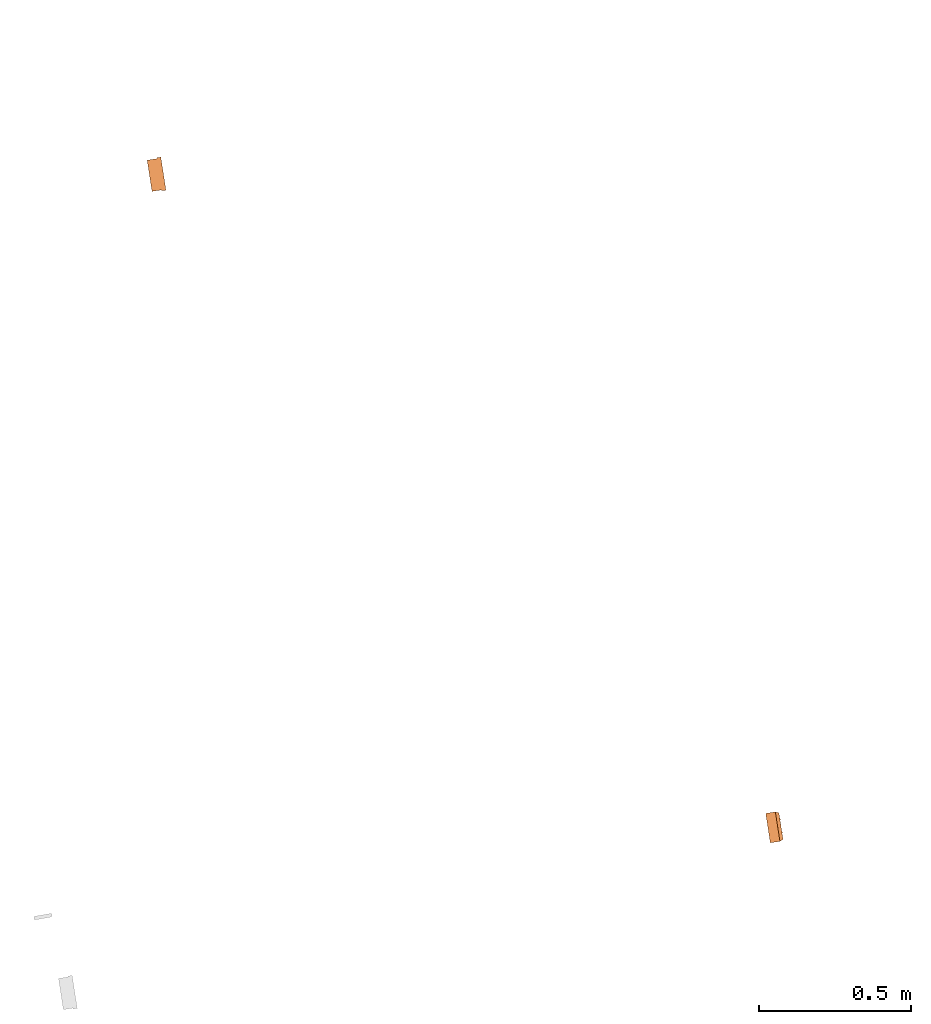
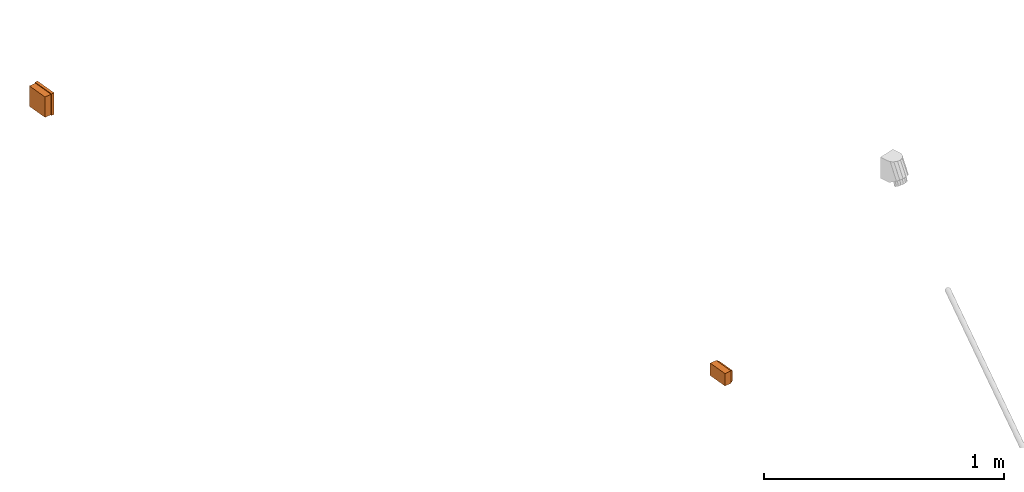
# One storey, part 29 of 33: 2 proxies.
"""IFC2X3 building model written with IfcOpenShell, lengths in millimetres."""

from ifc_helpers import new_model, entity, si_unit, converted_unit, derived_unit, direction, frame, frame_2d, origin, origin_with_axes, origin_2d_with_axis, place, context, subcontext, project, spatial, polyline, circle_curve, parameter, trimmed, segment, composite_curve, rectangle, circle, hollow_circle, outline, extrude, source, transform, mapped, material, type_object, element, save


model = new_model("IFC2X3")

# Units and contexts
plan_context = context("Plan", 3, precision=1e-05, world=origin_with_axes())
model_context = context("Model", 3, precision=0.01, world=origin(), true_north=direction((6.12323399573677e-17, 1.0)))
body_context = subcontext(model_context, "Body", "Model", "MODEL_VIEW")
ifc_project = project(units=[converted_unit("PLANEANGLEUNIT", "DEGREE", entity("IfcPositiveLengthMeasure", 0.0174532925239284), si_unit("PLANEANGLEUNIT", "RADIAN"), dimensions=[0, 0, 0, 0, 0, 0, 0]), si_unit("AREAUNIT", "SQUARE_METRE"), si_unit("LENGTHUNIT", "METRE", prefix="MILLI"), si_unit("MASSUNIT", "GRAM", prefix="KILO"), si_unit("POWERUNIT", "WATT"), si_unit("PRESSUREUNIT", "PASCAL", prefix="KILO"), si_unit("FORCEUNIT", "NEWTON", prefix="KILO"), si_unit("ELECTRICVOLTAGEUNIT", "VOLT"), si_unit("ELECTRICCURRENTUNIT", "AMPERE"), si_unit("THERMODYNAMICTEMPERATUREUNIT", "DEGREE_CELSIUS"), si_unit("TIMEUNIT", "SECOND"), si_unit("VOLUMEUNIT", "CUBIC_METRE"), derived_unit("LINEARVELOCITYUNIT", [(si_unit("LENGTHUNIT", "METRE"), 1), (si_unit("TIMEUNIT", "SECOND"), -1)]), derived_unit("VOLUMETRICFLOWRATEUNIT", [(si_unit("VOLUMEUNIT", "CUBIC_METRE"), 1), (si_unit("TIMEUNIT", "SECOND"), -1)]), derived_unit("THERMALTRANSMITTANCEUNIT", [(si_unit("POWERUNIT", "WATT"), 1), (si_unit("THERMODYNAMICTEMPERATUREUNIT", "KELVIN"), -1), (si_unit("AREAUNIT", "SQUARE_METRE"), -1)]), derived_unit("SOUNDPRESSUREUNIT", [(si_unit("PRESSUREUNIT", "PASCAL"), 1)])], contexts=[model_context, plan_context])

# Site, building, storey
site_placement = place(None, frame((-0.219946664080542, 0.12226179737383, 0.0), z_axis=(0.0, 0.0, 1.0), x_axis=(-0.160236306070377, 0.987078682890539, 0.0)))
site = spatial("IfcSite", under=ifc_project, at=site_placement, Name="Default", CompositionType="ELEMENT")
building_placement = place(site_placement, origin_with_axes())
building = spatial("IfcBuilding", under=site, at=building_placement, CompositionType="ELEMENT")
storey_placement = place(building_placement, frame((0.0, 0.0, 59000.0), z_axis=(0.0, 0.0, 1.0), x_axis=(1.0, 0.0, 0.0)))
storey = spatial("IfcBuildingStorey", under=building, at=storey_placement, Name="Nivå F", CompositionType="ELEMENT", Elevation=59000.0)

# Proxies
ifc_material = material(Name="<Unnamed>")
building_element_proxy_type_1 = type_object("IfcBuildingElementProxyType", Name="Dobbel stikk på vegg 2P+J hor PH:EARTHED-SOCKET-2(HOR)", PredefinedType="NOTDEFINED", material=ifc_material)
shared_shape_1 = source(origin(), body_context, "Body", "SweptSolid", [
    extrude(outline(composite_curve([segment(polyline([(-6.66666666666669, -6.66666666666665), (13.3333333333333, -6.66666666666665)]), True, "CONTINUOUS"), segment(trimmed(circle_curve(frame_2d((13.3333333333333, 13.3333333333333), x_axis=(0.0, -1.0)), 20.0), [parameter(270.0)], [parameter(5.08888749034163e-14)], True, "PARAMETER"), False, "CONTINUOUS"), segment(polyline([(-6.66666666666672, 13.3333333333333), (-6.66666666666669, -6.66666666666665)]), True, "CONTINUOUS")], self_intersect=False)), frame((35.3333333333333, 42.8999999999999, 13.3533333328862), z_axis=(0.0, 1.0, 0.0), x_axis=(0.0, 0.0, -1.0)), (0.0, 0.0, 1.0), 0.199999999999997),
    extrude(outline(composite_curve([segment(polyline([(-6.66666666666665, -6.66666666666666), (13.3333333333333, -6.66666666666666)]), True, "CONTINUOUS"), segment(trimmed(circle_curve(frame_2d((13.3333333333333, 13.3333333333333), x_axis=(-1.0, 0.0)), 20.0), [parameter(360.0)], [parameter(89.9999999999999)], True, "PARAMETER"), False, "CONTINUOUS"), segment(polyline([(-6.66666666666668, 13.3333333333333), (-6.66666666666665, -6.66666666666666)]), True, "CONTINUOUS")], self_intersect=False)), frame((35.3333333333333, 42.8999999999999, -13.3233333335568), z_axis=(0.0, 1.0, 0.0), x_axis=(-1.0, 0.0, 0.0)), (0.0, 0.0, 1.0), 0.199999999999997),
    extrude(outline(composite_curve([segment(polyline([(-6.66666666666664, -6.66666666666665), (13.3333333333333, -6.66666666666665)]), True, "CONTINUOUS"), segment(trimmed(circle_curve(frame_2d((13.3333333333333, 13.3333333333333), x_axis=(-1.0, 0.0)), 20.0), [parameter(0.0)], [parameter(89.9999999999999)], True, "PARAMETER"), False, "CONTINUOUS"), segment(polyline([(-6.66666666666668, 13.3333333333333), (-6.66666666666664, -6.66666666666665)]), True, "CONTINUOUS")], self_intersect=False)), frame((8.66666666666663, 42.8999999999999, 13.3433333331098), z_axis=(0.0, 1.0, 0.0), x_axis=(1.0, 0.0, 0.0)), (0.0, 0.0, 1.0), 0.199999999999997),
    extrude(outline(composite_curve([segment(polyline([(-6.66666666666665, -6.66666666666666), (13.3333333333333, -6.66666666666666)]), True, "CONTINUOUS"), segment(trimmed(circle_curve(frame_2d((13.3333333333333, 13.3333333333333), x_axis=(-1.0, 0.0)), 20.0), [parameter(360.0)], [parameter(89.9999999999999)], True, "PARAMETER"), False, "CONTINUOUS"), segment(polyline([(-6.66666666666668, 13.3333333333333), (-6.66666666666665, -6.66666666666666)]), True, "CONTINUOUS")], self_intersect=False)), frame((35.3333333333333, 42.8999999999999, -13.3433333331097), z_axis=(0.0, 1.0, 0.0), x_axis=(-1.0, 0.0, 0.0)), (0.0, 0.0, 1.0), 0.199999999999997),
    extrude(outline(composite_curve([segment(polyline([(-6.66666666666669, -6.66666666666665), (13.3333333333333, -6.66666666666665)]), True, "CONTINUOUS"), segment(trimmed(circle_curve(frame_2d((13.3333333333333, 13.3333333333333), x_axis=(0.0, -1.0)), 20.0), [parameter(270.0)], [parameter(5.08888749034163e-14)], True, "PARAMETER"), False, "CONTINUOUS"), segment(polyline([(-6.66666666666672, 13.3333333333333), (-6.66666666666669, -6.66666666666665)]), True, "CONTINUOUS")], self_intersect=False)), frame((35.3333333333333, 42.8999999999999, 13.3333333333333), z_axis=(0.0, 1.0, 0.0), x_axis=(0.0, 0.0, -1.0)), (0.0, 0.0, 1.0), 0.199999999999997),
    extrude(outline(composite_curve([segment(polyline([(-6.66666666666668, -6.66666666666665), (13.3333333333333, -6.66666666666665)]), True, "CONTINUOUS"), segment(trimmed(circle_curve(frame_2d((13.3333333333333, 13.3333333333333), x_axis=(0.0, -1.0)), 20.0), [parameter(270.0)], [parameter(0.0)], True, "PARAMETER"), False, "CONTINUOUS"), segment(polyline([(-6.66666666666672, 13.3333333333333), (-6.66666666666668, -6.66666666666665)]), True, "CONTINUOUS")], self_intersect=False)), frame((8.66666666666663, 42.8999999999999, -13.3333333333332), z_axis=(0.0, 1.0, 0.0), x_axis=(0.0, 0.0, 1.0)), (0.0, 0.0, 1.0), 0.199999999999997),
    extrude(outline(composite_curve([segment(polyline([(-6.66666666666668, -6.66666666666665), (13.3333333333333, -6.66666666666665)]), True, "CONTINUOUS"), segment(trimmed(circle_curve(frame_2d((13.3333333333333, 13.3333333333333), x_axis=(0.0, -1.0)), 20.0), [parameter(270.0)], [parameter(0.0)], True, "PARAMETER"), False, "CONTINUOUS"), segment(polyline([(-6.66666666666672, 13.3333333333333), (-6.66666666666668, -6.66666666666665)]), True, "CONTINUOUS")], self_intersect=False)), frame((-8.66666666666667, 42.8999999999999, 13.3533333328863), z_axis=(0.0, 1.0, 0.0), x_axis=(0.0, 0.0, -1.0)), (0.0, 0.0, 1.0), 0.199999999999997),
    extrude(outline(composite_curve([segment(polyline([(-6.66666666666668, -6.66666666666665), (13.3333333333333, -6.66666666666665)]), True, "CONTINUOUS"), segment(trimmed(circle_curve(frame_2d((13.3333333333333, 13.3333333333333), x_axis=(-1.0, 0.0)), 20.0), [parameter(0.0)], [parameter(90.0)], True, "PARAMETER"), False, "CONTINUOUS"), segment(polyline([(-6.66666666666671, 13.3333333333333), (-6.66666666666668, -6.66666666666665)]), True, "CONTINUOUS")], self_intersect=False)), frame((-8.66666666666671, 42.8999999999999, -13.3233333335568), z_axis=(0.0, 1.0, 0.0), x_axis=(-1.0, 0.0, 0.0)), (0.0, 0.0, 1.0), 0.199999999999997),
    extrude(outline(composite_curve([segment(polyline([(-6.66666666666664, -6.66666666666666), (13.3333333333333, -6.66666666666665)]), True, "CONTINUOUS"), segment(trimmed(circle_curve(frame_2d((13.3333333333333, 13.3333333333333), x_axis=(-1.0, 0.0)), 20.0), [parameter(360.0)], [parameter(89.9999999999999)], True, "PARAMETER"), False, "CONTINUOUS"), segment(polyline([(-6.66666666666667, 13.3333333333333), (-6.66666666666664, -6.66666666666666)]), True, "CONTINUOUS")], self_intersect=False)), frame((-35.3333333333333, 42.8999999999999, 13.3433333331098), z_axis=(0.0, 1.0, 0.0), x_axis=(1.0, 0.0, 0.0)), (0.0, 0.0, 1.0), 0.199999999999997),
    extrude(outline(composite_curve([segment(polyline([(-6.66666666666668, -6.66666666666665), (13.3333333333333, -6.66666666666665)]), True, "CONTINUOUS"), segment(trimmed(circle_curve(frame_2d((13.3333333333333, 13.3333333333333), x_axis=(-1.0, 0.0)), 20.0), [parameter(0.0)], [parameter(90.0)], True, "PARAMETER"), False, "CONTINUOUS"), segment(polyline([(-6.66666666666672, 13.3333333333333), (-6.66666666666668, -6.66666666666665)]), True, "CONTINUOUS")], self_intersect=False)), frame((-8.66666666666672, 42.8999999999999, -13.3433333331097), z_axis=(0.0, 1.0, 0.0), x_axis=(-1.0, 0.0, 0.0)), (0.0, 0.0, 1.0), 0.199999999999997),
    extrude(outline(composite_curve([segment(polyline([(-6.66666666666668, -6.66666666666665), (13.3333333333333, -6.66666666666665)]), True, "CONTINUOUS"), segment(trimmed(circle_curve(frame_2d((13.3333333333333, 13.3333333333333), x_axis=(0.0, -1.0)), 20.0), [parameter(270.0)], [parameter(0.0)], True, "PARAMETER"), False, "CONTINUOUS"), segment(polyline([(-6.66666666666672, 13.3333333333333), (-6.66666666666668, -6.66666666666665)]), True, "CONTINUOUS")], self_intersect=False)), frame((-8.66666666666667, 42.8999999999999, 13.3333333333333), z_axis=(0.0, 1.0, 0.0), x_axis=(0.0, 0.0, -1.0)), (0.0, 0.0, 1.0), 0.199999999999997),
    extrude(outline(composite_curve([segment(polyline([(-6.66666666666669, -6.66666666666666), (13.3333333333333, -6.66666666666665)]), True, "CONTINUOUS"), segment(trimmed(circle_curve(frame_2d((13.3333333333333, 13.3333333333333), x_axis=(0.0, -1.0)), 20.0), [parameter(270.0)], [parameter(5.08888749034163e-14)], True, "PARAMETER"), False, "CONTINUOUS"), segment(polyline([(-6.66666666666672, 13.3333333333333), (-6.66666666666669, -6.66666666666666)]), True, "CONTINUOUS")], self_intersect=False)), frame((-35.3333333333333, 42.8999999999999, -13.3333333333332), z_axis=(0.0, 1.0, 0.0), x_axis=(0.0, 0.0, 1.0)), (0.0, 0.0, 1.0), 0.199999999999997),
    extrude(rectangle(XDim=9.99999999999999, YDim=1.0, at=frame_2d((0.0, 2.1094237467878e-15), x_axis=(1.0, 0.0))), frame((22.0, 40.0, -17.6), z_axis=(0.0, 0.0, 1.0), x_axis=(0.0, -1.0, 0.0)), (0.0, 0.0, 1.0), 0.199999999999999),
    extrude(rectangle(XDim=21.5, YDim=1.0, at=frame_2d((0.0, 8.43769498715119e-15), x_axis=(1.0, 0.0))), frame((22.0, 32.25, -19.6), z_axis=(0.0, 0.0, 1.0), x_axis=(0.0, -1.0, 0.0)), (0.0, 0.0, 1.0), 0.200000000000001),
    extrude(rectangle(XDim=9.99999999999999, YDim=1.0, at=frame_2d((0.0, 2.1094237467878e-15), x_axis=(1.0, 0.0))), frame((22.0, 40.0, 17.4), z_axis=(0.0, 0.0, 1.0), x_axis=(0.0, -1.0, 0.0)), (0.0, 0.0, 1.0), 0.199999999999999),
    extrude(rectangle(XDim=21.5, YDim=1.0, at=frame_2d((0.0, 8.43769498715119e-15), x_axis=(1.0, 0.0))), frame((22.0, 32.25, 19.4), z_axis=(0.0, 0.0, 1.0), x_axis=(0.0, -1.0, 0.0)), (0.0, 0.0, 1.0), 0.200000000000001),
    extrude(rectangle(XDim=9.99999999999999, YDim=1.0, at=frame_2d((0.0, -2.1094237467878e-15), x_axis=(1.0, 0.0))), frame((-22.0, 40.0, -17.6), z_axis=(0.0, 0.0, 1.0), x_axis=(0.0, -1.0, 0.0)), (0.0, 0.0, 1.0), 0.199999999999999),
    extrude(rectangle(XDim=21.5, YDim=1.0, at=frame_2d((0.0, 8.43769498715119e-15), x_axis=(1.0, 0.0))), frame((-22.0, 32.25, -19.6), z_axis=(0.0, 0.0, 1.0), x_axis=(0.0, -1.0, 0.0)), (0.0, 0.0, 1.0), 0.200000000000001),
    extrude(rectangle(XDim=9.99999999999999, YDim=1.0, at=frame_2d((0.0, -2.1094237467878e-15), x_axis=(1.0, 0.0))), frame((-22.0, 40.0, 17.4), z_axis=(0.0, 0.0, 1.0), x_axis=(0.0, -1.0, 0.0)), (0.0, 0.0, 1.0), 0.199999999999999),
    extrude(rectangle(XDim=21.5, YDim=1.0, at=frame_2d((0.0, 8.43769498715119e-15), x_axis=(1.0, 0.0))), frame((-22.0, 32.25, 19.4), z_axis=(0.0, 0.0, 1.0), x_axis=(0.0, -1.0, 0.0)), (0.0, 0.0, 1.0), 0.200000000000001),
    extrude(rectangle(XDim=0.199999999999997, YDim=2.0, at=frame_2d((4.2257863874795e-15, 0.0), x_axis=(1.0, 0.0))), frame((43.0, 43.0, 0.0199999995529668), z_axis=(0.0, 0.0, 1.0), x_axis=(0.0, 1.0, 0.0)), (0.0, 0.0, 1.0), 20.0),
    extrude(rectangle(XDim=0.199999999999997, YDim=40.0, at=frame_2d((4.2257863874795e-15, 0.0), x_axis=(1.0, 0.0))), frame((22.0, 43.0, 20.0199999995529), z_axis=(0.0, 0.0, 1.0), x_axis=(0.0, 1.0, 0.0)), (0.0, 0.0, 1.0), 6.5),
    extrude(rectangle(XDim=0.199999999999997, YDim=2.0, at=frame_2d((4.2257863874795e-15, 0.0), x_axis=(1.0, 0.0))), frame((43.0, 43.0, -19.9900000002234), z_axis=(0.0, 0.0, 1.0), x_axis=(0.0, -1.0, 0.0)), (0.0, 0.0, 1.0), 20.0),
    extrude(rectangle(XDim=0.199999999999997, YDim=40.0, at=frame_2d((4.2257863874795e-15, 0.0), x_axis=(1.0, 0.0))), frame((22.0, 43.0, -26.4900000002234), z_axis=(0.0, 0.0, 1.0), x_axis=(0.0, -1.0, 0.0)), (0.0, 0.0, 1.0), 6.49999999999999),
    extrude(rectangle(XDim=0.199999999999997, YDim=2.0, at=frame_2d((4.2257863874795e-15, 0.0), x_axis=(1.0, 0.0))), frame((1.0, 43.0, 0.00999999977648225), z_axis=(0.0, 0.0, 1.0), x_axis=(0.0, -1.0, 0.0)), (0.0, 0.0, 1.0), 20.0),
    extrude(rectangle(XDim=0.199999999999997, YDim=2.0, at=frame_2d((4.2257863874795e-15, 0.0), x_axis=(1.0, 0.0))), frame((43.0, 43.0, -20.0099999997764), z_axis=(0.0, 0.0, 1.0), x_axis=(0.0, -1.0, 0.0)), (0.0, 0.0, 1.0), 20.0),
    extrude(rectangle(XDim=0.199999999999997, YDim=40.0, at=frame_2d((4.2257863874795e-15, 0.0), x_axis=(1.0, 0.0))), frame((22.0, 43.0, -26.5099999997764), z_axis=(0.0, 0.0, 1.0), x_axis=(0.0, -1.0, 0.0)), (0.0, 0.0, 1.0), 6.5),
    extrude(rectangle(XDim=0.199999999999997, YDim=2.0, at=frame_2d((4.2257863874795e-15, 0.0), x_axis=(1.0, 0.0))), frame((43.0, 43.0, 0.0), z_axis=(0.0, 0.0, 1.0), x_axis=(0.0, 1.0, 0.0)), (0.0, 0.0, 1.0), 20.0),
    extrude(rectangle(XDim=0.199999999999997, YDim=40.0, at=frame_2d((4.2257863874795e-15, 0.0), x_axis=(1.0, 0.0))), frame((22.0, 43.0, 20.0), z_axis=(0.0, 0.0, 1.0), x_axis=(0.0, 1.0, 0.0)), (0.0, 0.0, 1.0), 6.5),
    extrude(rectangle(XDim=0.199999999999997, YDim=2.0, at=frame_2d((4.2257863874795e-15, 0.0), x_axis=(1.0, 0.0))), frame((1.0, 43.0, -20.0), z_axis=(0.0, 0.0, 1.0), x_axis=(0.0, 1.0, 0.0)), (0.0, 0.0, 1.0), 20.0),
    extrude(rectangle(XDim=0.199999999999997, YDim=2.0, at=frame_2d((4.2257863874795e-15, 0.0), x_axis=(1.0, 0.0))), frame((-1.0, 43.0, 0.0199999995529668), z_axis=(0.0, 0.0, 1.0), x_axis=(0.0, 1.0, 0.0)), (0.0, 0.0, 1.0), 20.0),
    extrude(rectangle(XDim=0.199999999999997, YDim=40.0, at=frame_2d((4.2257863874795e-15, 0.0), x_axis=(1.0, 0.0))), frame((-22.0, 43.0, 20.0199999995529), z_axis=(0.0, 0.0, 1.0), x_axis=(0.0, 1.0, 0.0)), (0.0, 0.0, 1.0), 6.5),
    extrude(rectangle(XDim=0.199999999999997, YDim=2.0, at=frame_2d((4.2257863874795e-15, 0.0), x_axis=(1.0, 0.0))), frame((-1.0, 43.0, -19.9900000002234), z_axis=(0.0, 0.0, 1.0), x_axis=(0.0, -1.0, 0.0)), (0.0, 0.0, 1.0), 20.0),
    extrude(rectangle(XDim=0.199999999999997, YDim=40.0, at=frame_2d((4.2257863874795e-15, 0.0), x_axis=(1.0, 0.0))), frame((-22.0, 43.0, -26.4900000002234), z_axis=(0.0, 0.0, 1.0), x_axis=(0.0, -1.0, 0.0)), (0.0, 0.0, 1.0), 6.49999999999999),
    extrude(rectangle(XDim=0.199999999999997, YDim=1.99999999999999, at=frame_2d((4.2257863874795e-15, 4.2188474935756e-15), x_axis=(1.0, 0.0))), frame((-43.0, 43.0, 0.00999999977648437), z_axis=(0.0, 0.0, 1.0), x_axis=(0.0, -1.0, 0.0)), (0.0, 0.0, 1.0), 20.0),
    extrude(rectangle(XDim=0.199999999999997, YDim=2.0, at=frame_2d((4.2257863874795e-15, 0.0), x_axis=(1.0, 0.0))), frame((-1.0, 43.0, -20.0099999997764), z_axis=(0.0, 0.0, 1.0), x_axis=(0.0, -1.0, 0.0)), (0.0, 0.0, 1.0), 20.0),
    extrude(rectangle(XDim=0.199999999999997, YDim=40.0, at=frame_2d((4.2257863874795e-15, 0.0), x_axis=(1.0, 0.0))), frame((-22.0, 43.0, -26.5099999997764), z_axis=(0.0, 0.0, 1.0), x_axis=(0.0, -1.0, 0.0)), (0.0, 0.0, 1.0), 6.5),
    extrude(rectangle(XDim=0.199999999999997, YDim=2.0, at=frame_2d((4.2257863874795e-15, 0.0), x_axis=(1.0, 0.0))), frame((-1.0, 43.0, 0.0), z_axis=(0.0, 0.0, 1.0), x_axis=(0.0, 1.0, 0.0)), (0.0, 0.0, 1.0), 20.0),
    extrude(rectangle(XDim=0.199999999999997, YDim=40.0, at=frame_2d((4.2257863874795e-15, 0.0), x_axis=(1.0, 0.0))), frame((-22.0, 43.0, 20.0), z_axis=(0.0, 0.0, 1.0), x_axis=(0.0, 1.0, 0.0)), (0.0, 0.0, 1.0), 6.5),
    extrude(rectangle(XDim=0.199999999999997, YDim=1.99999999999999, at=frame_2d((4.2257863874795e-15, -4.2188474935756e-15), x_axis=(1.0, 0.0))), frame((-43.0, 43.0, -20.0), z_axis=(0.0, 0.0, 1.0), x_axis=(0.0, 1.0, 0.0)), (0.0, 0.0, 1.0), 20.0),
    extrude(rectangle(XDim=0.199999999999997, YDim=2.0, at=frame_2d((4.2257863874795e-15, 0.0), x_axis=(1.0, 0.0))), frame((-1.0, 43.0, -26.5), z_axis=(0.0, 0.0, 1.0), x_axis=(0.0, 1.0, 0.0)), (0.0, 0.0, 1.0), 6.49999999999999),
    extrude(rectangle(XDim=0.199999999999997, YDim=1.99999999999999, at=frame_2d((4.2257863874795e-15, 4.2188474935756e-15), x_axis=(1.0, 0.0))), frame((-43.0, 43.0, -26.5), z_axis=(0.0, 0.0, 1.0), x_axis=(0.0, 1.0, 0.0)), (0.0, 0.0, 1.0), 6.49999999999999),
    extrude(rectangle(XDim=0.199999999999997, YDim=2.0, at=frame_2d((4.2257863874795e-15, 0.0), x_axis=(1.0, 0.0))), frame((1.0, 43.0, -26.5), z_axis=(0.0, 0.0, 1.0), x_axis=(0.0, 1.0, 0.0)), (0.0, 0.0, 1.0), 6.49999999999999),
    extrude(rectangle(XDim=0.199999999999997, YDim=1.99999999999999, at=frame_2d((4.2257863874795e-15, -4.2188474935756e-15), x_axis=(1.0, 0.0))), frame((43.0, 43.0, -26.5), z_axis=(0.0, 0.0, 1.0), x_axis=(0.0, 1.0, 0.0)), (0.0, 0.0, 1.0), 6.49999999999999),
    extrude(outline(polyline([(-24.3180677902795, -42.966633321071), (-11.2413709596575, -42.9666333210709), (22.4062700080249, 38.3465652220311), (13.1531687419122, 47.5867014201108), (-24.3180677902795, -42.966633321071)])), frame((0.0, 37.5413802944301, -29.0910366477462), z_axis=(0.0, -0.413802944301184, 0.910366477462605), x_axis=(-0.382359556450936, 0.84119102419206, 0.382359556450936)), (0.0, 0.0, 1.0), 0.199999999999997),
    extrude(outline(polyline([(-31.5, -6.04152298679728), (31.5, -6.04152298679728), (26.5, 6.04152298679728), (-26.5, 6.04152298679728), (-31.5, -6.04152298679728)])), frame((-46.5910366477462, 37.5413802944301, 0.0), z_axis=(0.910366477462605, -0.413802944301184, 0.0), x_axis=(0.0, 0.0, -1.0)), (0.0, 0.0, 1.0), 0.200000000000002),
    extrude(outline(polyline([(-31.5, -6.04152298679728), (31.5, -6.04152298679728), (26.5, 6.04152298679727), (-26.5, 6.04152298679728), (-31.5, -6.04152298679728)])), frame((46.4089633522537, 37.4586197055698, 0.0), z_axis=(0.910366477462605, 0.413802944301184, 0.0), x_axis=(0.0, 0.0, -1.0)), (0.0, 0.0, 1.0), 0.199999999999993),
    extrude(rectangle(XDim=32.0, YDim=97.9999999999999, at=frame_2d((1.77635683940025e-15, 0.0), x_axis=(1.0, 0.0))), frame((0.0, 16.0, -31.6), z_axis=(0.0, 0.0, 1.0), x_axis=(0.0, -1.0, 0.0)), (0.0, 0.0, 1.0), 0.200000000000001),
    extrude(rectangle(XDim=0.199999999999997, YDim=2.0, at=frame_2d((4.2257863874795e-15, 0.0), x_axis=(1.0, 0.0))), frame((-1.0, 43.0, 20.0), z_axis=(0.0, 0.0, 1.0), x_axis=(0.0, 1.0, 0.0)), (0.0, 0.0, 1.0), 6.49999999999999),
    extrude(rectangle(XDim=0.199999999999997, YDim=1.99999999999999, at=frame_2d((4.2257863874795e-15, 4.2188474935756e-15), x_axis=(1.0, 0.0))), frame((-43.0, 43.0, 20.0), z_axis=(0.0, 0.0, 1.0), x_axis=(0.0, 1.0, 0.0)), (0.0, 0.0, 1.0), 6.49999999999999),
    extrude(outline(polyline([(-44.0, -6.04152298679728), (44.0, -6.04152298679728), (49.0, 6.04152298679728), (-49.0, 6.04152298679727), (-44.0, -6.04152298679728)])), frame((0.0, 37.4586197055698, 28.9089633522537), z_axis=(0.0, 0.413802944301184, 0.910366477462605), x_axis=(-1.0, 0.0, 0.0)), (0.0, 0.0, 1.0), 0.200000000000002),
    extrude(rectangle(XDim=0.199999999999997, YDim=2.0, at=frame_2d((4.2257863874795e-15, 0.0), x_axis=(1.0, 0.0))), frame((1.0, 43.0, 20.0), z_axis=(0.0, 0.0, 1.0), x_axis=(0.0, 1.0, 0.0)), (0.0, 0.0, 1.0), 6.49999999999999),
    extrude(rectangle(XDim=0.199999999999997, YDim=1.99999999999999, at=frame_2d((4.2257863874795e-15, -4.2188474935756e-15), x_axis=(1.0, 0.0))), frame((43.0, 43.0, 20.0), z_axis=(0.0, 0.0, 1.0), x_axis=(0.0, 1.0, 0.0)), (0.0, 0.0, 1.0), 6.49999999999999),
    extrude(rectangle(XDim=32.0, YDim=97.9999999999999, at=frame_2d((1.77635683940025e-15, 0.0), x_axis=(1.0, 0.0))), frame((0.0, 16.0, 31.4), z_axis=(0.0, 0.0, 1.0), x_axis=(0.0, -1.0, 0.0)), (0.0, 0.0, 1.0), 0.200000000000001),
    extrude(rectangle(XDim=0.199999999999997, YDim=32.0, at=frame_2d((-4.2257863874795e-15, 0.0), x_axis=(1.0, 0.0))), frame((49.0, 16.0, -31.5)), (0.0, 0.0, 1.0), 62.9999999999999),
    extrude(rectangle(XDim=0.199999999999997, YDim=32.0, at=frame_2d((-4.2257863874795e-15, 0.0), x_axis=(1.0, 0.0))), frame((-49.0, 16.0, -31.5)), (0.0, 0.0, 1.0), 62.9999999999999),
    extrude(rectangle(XDim=0.2, YDim=97.9999999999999, at=origin_2d_with_axis()), frame((0.0, 0.0, -31.5), z_axis=(0.0, 0.0, 1.0), x_axis=(0.0, 1.0, 0.0)), (0.0, 0.0, 1.0), 62.9999999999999),
    extrude(circle(Radius=2.5, at=frame_2d((0.0, -4.22994972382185e-15), x_axis=(1.0, 0.0))), frame((32.0, 21.450000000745, 0.0), z_axis=(0.0, 1.0, 0.0), x_axis=(0.0, 0.0, 1.0)), (0.0, 0.0, 1.0), 0.200000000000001),
    extrude(circle(Radius=2.5, at=frame_2d((0.0, -4.22994972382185e-15), x_axis=(1.0, 0.0))), frame((12.0, 21.450000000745, 0.0), z_axis=(0.0, 1.0, 0.0), x_axis=(0.0, 0.0, 1.0)), (0.0, 0.0, 1.0), 0.200000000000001),
    extrude(circle(Radius=2.5, at=frame_2d((0.0, -4.22994972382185e-15), x_axis=(1.0, 0.0))), frame((-12.0, 21.450000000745, 0.0), z_axis=(0.0, 1.0, 0.0), x_axis=(0.0, 0.0, 1.0)), (0.0, 0.0, 1.0), 0.200000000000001),
    extrude(circle(Radius=2.5, at=frame_2d((0.0, -4.22994972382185e-15), x_axis=(1.0, 0.0))), frame((-32.0, 21.450000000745, 0.0), z_axis=(0.0, 1.0, 0.0), x_axis=(0.0, 0.0, 1.0)), (0.0, 0.0, 1.0), 0.200000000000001),
    extrude(circle(Radius=20.0, at=frame_2d((0.0, -2.96096480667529e-14), x_axis=(1.0, 0.0))), frame((22.0, 21.4, 0.0), z_axis=(0.0, 1.0, 0.0), x_axis=(0.0, 0.0, 1.0)), (0.0, 0.0, 1.0), 0.200000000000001),
    extrude(circle(Radius=20.0, at=frame_2d((0.0, -2.96096480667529e-14), x_axis=(1.0, 0.0))), frame((-22.0, 21.4, 0.0), z_axis=(0.0, 1.0, 0.0), x_axis=(0.0, 0.0, 1.0)), (0.0, 0.0, 1.0), 0.200000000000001),
    extrude(outline(composite_curve([segment(trimmed(circle_curve(frame_2d((-0.800000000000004, 0.800000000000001), x_axis=(1.0, 0.0)), 2.0), [parameter(270.0)], [parameter(0.0)], True, "PARAMETER"), True, "CONTINUOUS"), segment(polyline([(1.2, 0.8), (0.399999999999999, 0.8)]), True, "CONTINUOUS"), segment(trimmed(circle_curve(frame_2d((-0.800000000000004, 0.799999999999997), x_axis=(0.0, -1.0)), 1.2), [parameter(0.0)], [parameter(89.9999999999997)], True, "PARAMETER"), False, "CONTINUOUS"), segment(polyline([(-0.799999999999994, -0.400000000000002), (-0.799999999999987, -1.2)]), True, "CONTINUOUS")], self_intersect=False)), frame((20.5, 43.7999999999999, -18.3), z_axis=(1.0, 0.0, 0.0), x_axis=(0.0, 1.0, 0.0)), (0.0, 0.0, 1.0), 2.0),
    extrude(outline(composite_curve([segment(polyline([(-1.2, -0.800000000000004), (-0.399999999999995, -0.800000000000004)]), True, "CONTINUOUS"), segment(trimmed(circle_curve(frame_2d((0.800000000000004, -0.800000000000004), x_axis=(-1.0, 0.0)), 1.2), [parameter(270.0)], [parameter(0.0)], True, "PARAMETER"), False, "CONTINUOUS"), segment(polyline([(0.799999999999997, 0.399999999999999), (0.79999999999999, 1.2)]), True, "CONTINUOUS"), segment(trimmed(circle_curve(frame_2d((0.800000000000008, -0.800000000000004), x_axis=(0.0, 1.0)), 2.0), [parameter(0.0)], [parameter(89.9999999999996)], True, "PARAMETER"), True, "CONTINUOUS")], self_intersect=False)), frame((21.5, 43.8, 18.3), z_axis=(1.0, 0.0, 0.0), x_axis=(0.0, 0.0, -1.0)), (0.0, 0.0, 1.0), 2.0),
    extrude(outline(composite_curve([segment(trimmed(circle_curve(frame_2d((-0.800000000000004, 0.800000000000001), x_axis=(1.0, 0.0)), 2.0), [parameter(270.0)], [parameter(0.0)], True, "PARAMETER"), True, "CONTINUOUS"), segment(polyline([(1.2, 0.8), (0.399999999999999, 0.8)]), True, "CONTINUOUS"), segment(trimmed(circle_curve(frame_2d((-0.800000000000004, 0.799999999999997), x_axis=(0.0, -1.0)), 1.2), [parameter(0.0)], [parameter(89.9999999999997)], True, "PARAMETER"), False, "CONTINUOUS"), segment(polyline([(-0.799999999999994, -0.400000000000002), (-0.799999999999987, -1.2)]), True, "CONTINUOUS")], self_intersect=False)), frame((-23.5, 43.7999999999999, -18.3), z_axis=(1.0, 0.0, 0.0), x_axis=(0.0, 1.0, 0.0)), (0.0, 0.0, 1.0), 2.0),
    extrude(outline(composite_curve([segment(polyline([(-1.2, -0.800000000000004), (-0.399999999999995, -0.800000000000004)]), True, "CONTINUOUS"), segment(trimmed(circle_curve(frame_2d((0.800000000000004, -0.800000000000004), x_axis=(-1.0, 0.0)), 1.2), [parameter(270.0)], [parameter(0.0)], True, "PARAMETER"), False, "CONTINUOUS"), segment(polyline([(0.799999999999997, 0.399999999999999), (0.79999999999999, 1.2)]), True, "CONTINUOUS"), segment(trimmed(circle_curve(frame_2d((0.800000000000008, -0.800000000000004), x_axis=(0.0, 1.0)), 2.0), [parameter(0.0)], [parameter(89.9999999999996)], True, "PARAMETER"), True, "CONTINUOUS")], self_intersect=False)), frame((-22.5, 43.8, 18.3), z_axis=(1.0, 0.0, 0.0), x_axis=(0.0, 0.0, -1.0)), (0.0, 0.0, 1.0), 2.0),
    extrude(hollow_circle(Radius=20.0, WallThickness=0.199999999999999, at=frame_2d((0.0, -2.96096480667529e-14), x_axis=(1.0, 0.0))), frame((22.0, 21.5, 0.0), z_axis=(0.0, 1.0, 0.0), x_axis=(0.0, 0.0, 1.0)), (0.0, 0.0, 1.0), 21.5),
    extrude(hollow_circle(Radius=20.0, WallThickness=0.199999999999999, at=frame_2d((0.0, -2.96096480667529e-14), x_axis=(1.0, 0.0))), frame((-22.0, 21.5, 0.0), z_axis=(0.0, 1.0, 0.0), x_axis=(0.0, 0.0, 1.0)), (0.0, 0.0, 1.0), 21.5),
])
proxy_1_placement = place(storey_placement, frame((781686.790440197, -504628.879820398, 1200.0), z_axis=(0.0, 0.0, 1.0), x_axis=(-0.999975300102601, 0.00702845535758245, 0.0)))
element("IfcBuildingElementProxy", 1, at=proxy_1_placement, inside=storey, type_object=building_element_proxy_type_1, material=ifc_material, Name="Dobbel stikk på vegg 2P+J hor PH:EARTHED-SOCKET-2(HOR)", ObjectType="Dobbel stikk på vegg 2P+J hor PH:EARTHED-SOCKET-2(HOR)", context=body_context, shape_type="MappedRepresentation", body=[
    mapped(shared_shape_1, transform((0.0, 0.0, 0.0), scale=1.0)),
])
building_element_proxy_type_2 = type_object("IfcBuildingElementProxyType", Name="1612510-0001:Junction box1", PredefinedType="NOTDEFINED", material=ifc_material)
shared_shape_2 = source(origin(), body_context, "Body", "SweptSolid", [
    extrude(rectangle(XDim=110.0, YDim=13.8000001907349, at=frame_2d((0.0, 2.22044604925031e-15), x_axis=(1.0, 0.0))), frame((0.0, 39.1000008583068, -55.0)), (0.0, 0.0, 1.0), 110.0),
    extrude(rectangle(XDim=104.0, YDim=32.2000007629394, at=origin_2d_with_axis()), frame((0.0, 16.1000003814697, -52.0)), (0.0, 0.0, 1.0), 104.0),
])
proxy_2_placement = place(storey_placement, frame((784133.585049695, -502962.784489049, 2000.0), z_axis=(0.0, 0.0, 1.0), x_axis=(-0.999975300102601, 0.00702845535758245, 0.0)))
element("IfcBuildingElementProxy", 2, at=proxy_2_placement, inside=storey, type_object=building_element_proxy_type_2, material=ifc_material, Name="1612510-0001:Junction box1", ObjectType="1612510-0001:Junction box1", context=body_context, shape_type="MappedRepresentation", body=[
    mapped(shared_shape_2, transform((0.0, 0.0, 0.0), scale=1.0)),
])

save(model, "model.ifc")
